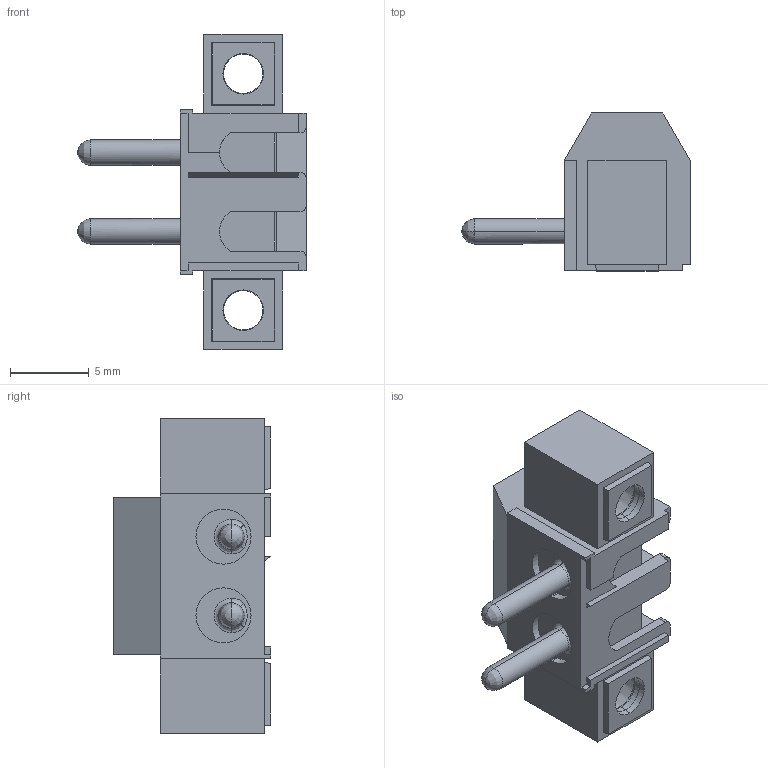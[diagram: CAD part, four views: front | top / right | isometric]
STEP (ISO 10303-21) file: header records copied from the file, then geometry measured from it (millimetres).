
FILE_DESCRIPTION (( 'STEP AP214' ), '1' );
FILE_NAME ('951-B-SV-02.STEP', '2008-04-17T08:15:42', ( 'weco' ), ( 'weco' ), 'SwSTEP 2.0', 'SolidWorks 2007', '' );
FILE_SCHEMA (( 'AUTOMOTIVE_DESIGN' ));
Length unit declared in the file: millimetre
Products named in the file (1): 951-B-SV-02
Bounding box: 14.5 x 10 x 20 mm (x, y, z)
Volume: 816.1 mm3; surface area: 1111.7 mm2
Topology: 1 solids, 1 shells, 189 faces, 536 edges, 349 vertices
Faces by surface type: plane 126, cylinder 31, bspline 20, cone 12
Entity records: 7117 total; most frequent: CARTESIAN_POINT 2341, ORIENTED_EDGE 1064, DIRECTION 896, EDGE_CURVE 532, VERTEX_POINT 349, LINE 344, VECTOR 344, AXIS2_PLACEMENT_3D 276
